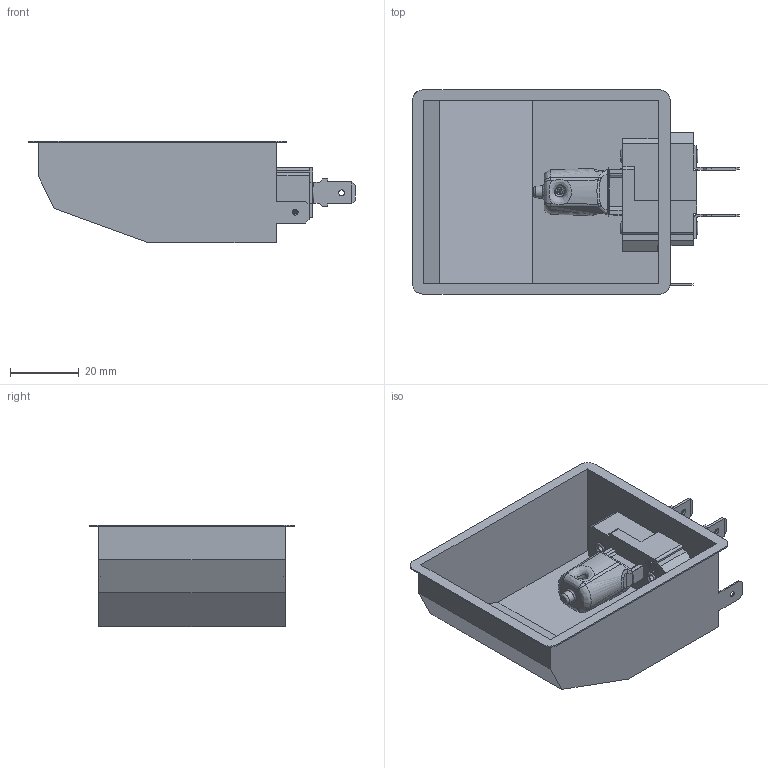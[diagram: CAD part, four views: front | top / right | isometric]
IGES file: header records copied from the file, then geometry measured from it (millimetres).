
Start section: C
Global section: file name: 01B-M2J-04.igs; native system: By Siemens PLM Incorporated; preprocessor: XPlus GENERIC/IGES 23.0.61; author: Author; organization: Title; date: 20231208.101953; units: millimetre
Bounding box: 94.8 x 59.2 x 29.55 mm (x, y, z)
Volume: 15592.1 mm3; surface area: 26541.2 mm2
Topology: 7 solids, 7 shells, 1102 faces, 2871 edges, 1871 vertices
Faces by surface type: bspline 1102
